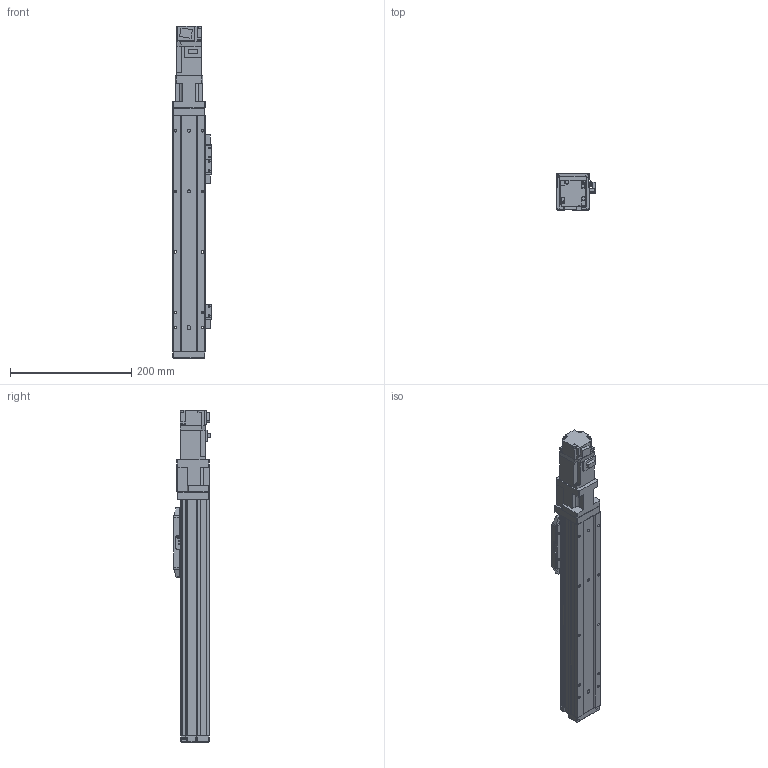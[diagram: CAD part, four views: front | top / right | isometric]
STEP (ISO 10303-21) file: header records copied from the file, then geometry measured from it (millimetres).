
FILE_DESCRIPTION (( 'STEP AP214' ), '1' );
FILE_NAME ('N_GRH5-250-BC-M10.step', '2025-03-14T09:33:50', ( '' ), ( '' ), 'SwSTEP 2.0', 'SolidWorks 2016', '' );
FILE_SCHEMA (( 'AUTOMOTIVE_DESIGN' ));
Length unit declared in the file: millimetre
Products named in the file (5): N_GRH5-250-BC-M10; N_GRH5-BC-008^N_GRH5-250-BC-M10; N_GRH5-GY-011^N_GRH5-250-BC-M10; HF-KP13_100W_Motor^N_GRH5-250-BC-M10; N_GRH5-GY-004^N_GRH5-250-BC-M10
Assembly tree (4 placements, depth 2):
  N_GRH5-250-BC-M10
    N_GRH5-GY-011^N_GRH5-250-BC-M10
    N_GRH5-GY-004^N_GRH5-250-BC-M10
    N_GRH5-BC-008^N_GRH5-250-BC-M10
    HF-KP13_100W_Motor^N_GRH5-250-BC-M10
Bounding box: 64.05 x 60.7 x 547.9 mm (x, y, z)
Volume: 968149.5 mm3; surface area: 253004.5 mm2
Topology: 4 solids, 5 shells, 914 faces, 2366 edges, 1503 vertices
Faces by surface type: plane 550, cylinder 304, cone 58, sphere 2
Entity records: 34190 total; most frequent: CARTESIAN_POINT 4826, DIRECTION 4805, ORIENTED_EDGE 4660, EDGE_CURVE 2330, LINE 1661, VECTOR 1661, AXIS2_PLACEMENT_3D 1572, VERTEX_POINT 1501
